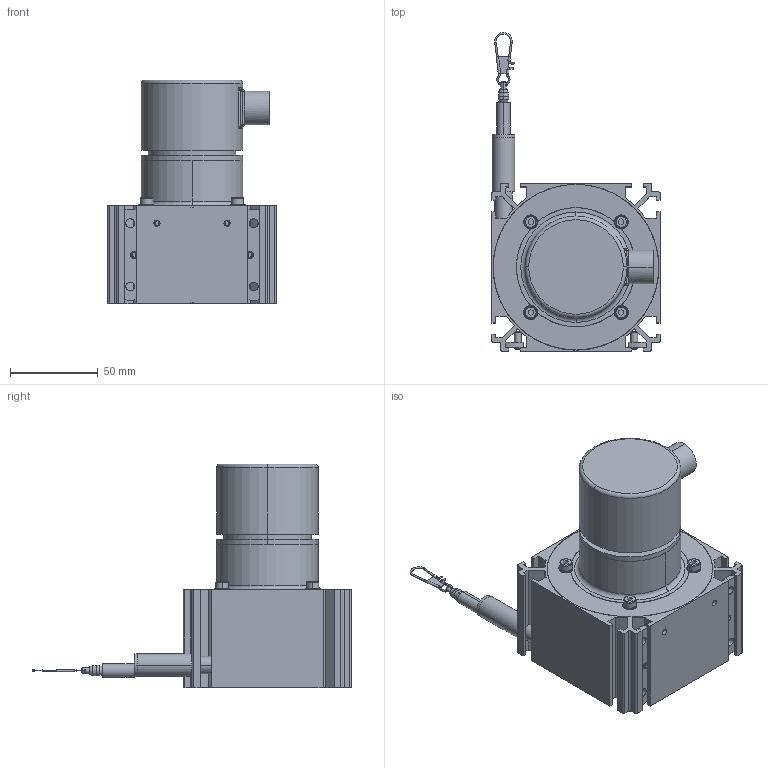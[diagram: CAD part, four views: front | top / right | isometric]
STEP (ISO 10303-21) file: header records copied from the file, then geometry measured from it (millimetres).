
FILE_DESCRIPTION((''),'2;1');
FILE_NAME('WDS-3000-P96-SR-SSI_ASM','2015-01-09T',('15000411'),(''),'PRO/ENGINEER BY PARAMETRIC TECHNOLOGY CORPORATION, 2013410','PRO/ENGINEER BY PARAMETRIC TECHNOLOGY CORPORATION, 2013410','');
FILE_SCHEMA(('CONFIG_CONTROL_DESIGN'));
Length unit declared in the file: millimetre
Products named in the file (55): TELESO_SENZORU_3I0_AF0; ADAPTER_3M_P96_AF0; STAV_SR_M4X5_IMBUS_PLOCH_AF0; STAV_SR_M4X5_IMBUS_PLOCH_AF1; STAV_SR_M4X5_IMBUS_PLOCH_AF2; STAV_SR_M4X5_IMBUS_PLOCH_AF3; POJ_KROUZEK_DIRA_21X_AF0; POJ_KROUZEK_DIRA_21X_AF1; LOZISKO_6801_AF0; LOZISKO_6801_AF1; HRIDEL_3M_AF0; PODLOZKA_MOTORU_5M_P115_AF0; POJ_KROUZEK_HRIDEL_12_AF0; UNASEC_PRUZINY_3M_AF0; KOLIK_PRUZNY_3X20_AF0; KOLIK_PRUZNY_3X20_AF1; KOLIK_PRUZNY_3X20_AF2; KOLIK_PRUZNY_3X20_AF3; KOLIK_PRUZNY_3X20_AF4; KOLIK_PRUZNY_3X20_AF5; KOLIK_PRUZNY_3X20_AF6; 14X0I25X6000_AF0; PODLOZKA_MOTORU_15X84I5X0I5_AF0; BUBINEK_260_AF0; STAV_SR_M4X5_IMBUS_PLOCH_AF4; VIKO_SENZORU_P96_CERNY_ELOX_AF0; TRUBKA_PRUCHODKY_2I5M_P96_AF0; PRUCHODKA_1_2; KARABINKA18_AF0; SPOJKA_GS5_PR6_2I1_AF0; SPOJKA_KRIZ_AF0; SPOJKA_GS5_PR6_AF0; STAV_SR_M3X3_IMBUS_PLOCH_AF0; PRIRUBA_SYNCHROENKODERU_P96_AF0; PODLOZKA_M4_VEJIROVA_AF0; SROUB_M4X6_VALC_IMBUS_AF0; PODLOZKA_M4_VEJIROVA_AF1; SROUB_M4X6_VALC_IMBUS_AF1; PODLOZKA_M4_VEJIROVA_AF2; SROUB_M4X6_VALC_IMBUS_AF2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
Assembly tree (54 placements, depth 2):
  WDS-3000-P96-SR-SSI_ASM
    TELESO_SENZORU_3I0_AF0
    ADAPTER_3M_P96_AF0
    STAV_SR_M4X5_IMBUS_PLOCH_AF0
    STAV_SR_M4X5_IMBUS_PLOCH_AF1
    STAV_SR_M4X5_IMBUS_PLOCH_AF2
    STAV_SR_M4X5_IMBUS_PLOCH_AF3
    POJ_KROUZEK_DIRA_21X_AF0
    POJ_KROUZEK_DIRA_21X_AF1
    LOZISKO_6801_AF0
    LOZISKO_6801_AF1
    HRIDEL_3M_AF0
    PODLOZKA_MOTORU_5M_P115_AF0
    POJ_KROUZEK_HRIDEL_12_AF0
    UNASEC_PRUZINY_3M_AF0
    KOLIK_PRUZNY_3X20_AF0
    KOLIK_PRUZNY_3X20_AF1
    KOLIK_PRUZNY_3X20_AF2
    KOLIK_PRUZNY_3X20_AF3
    KOLIK_PRUZNY_3X20_AF4
    KOLIK_PRUZNY_3X20_AF5
    KOLIK_PRUZNY_3X20_AF6
    14X0I25X6000_AF0
    PODLOZKA_MOTORU_15X84I5X0I5_AF0
    BUBINEK_260_AF0
    STAV_SR_M4X5_IMBUS_PLOCH_AF4
    VIKO_SENZORU_P96_CERNY_ELOX_AF0
    TRUBKA_PRUCHODKY_2I5M_P96_AF0
    PRUCHODKA_1_2
    KARABINKA18_AF0
    SPOJKA_GS5_PR6_2I1_AF0
    SPOJKA_KRIZ_AF0
    SPOJKA_GS5_PR6_AF0
    STAV_SR_M3X3_IMBUS_PLOCH_AF0
    PRIRUBA_SYNCHROENKODERU_P96_AF0
    PODLOZKA_M4_VEJIROVA_AF0
    SROUB_M4X6_VALC_IMBUS_AF0
    PODLOZKA_M4_VEJIROVA_AF1
    SROUB_M4X6_VALC_IMBUS_AF1
    PODLOZKA_M4_VEJIROVA_AF2
    SROUB_M4X6_VALC_IMBUS_AF2
    PODLOZKA_M4_VEJIROVA_AF3
    SROUB_M4X6_VALC_IMBUS_AF3
    KOLIK_PRUZNY_2X10_AF0
    UPEVNOVACI_MATICE_P96_M_IVO_AF0
    UPEVNOVACI_MATICE_P96_M_IVO_AF1
    STAV_SR_M4X10_IMBUS_PLOCH_AF0
    STAV_SR_M4X10_IMBUS_PLOCH_AF1
    PODLOZKA_M4_VEJIROVA_AF4
    SROUB_M4X6_PHILLIPS_AF0
    PODLOZKA_M4_VEJIROVA_AF5
    SROUB_M4X6_PHILLIPS_AF1
    PODLOZKA_M4_VEJIROVA_AF6
    SROUB_M4X6_PHILLIPS_AF2
    IVO_GM401_SSI_SR_E_SERVO_AF0
Bounding box: 96 x 181.99 x 127.7 mm (x, y, z)
Volume: 145301.8 mm3; surface area: 119358.5 mm2
Topology: 24 solids, 24 shells, 796 faces, 2056 edges, 1331 vertices
Faces by surface type: plane 491, cylinder 209, torus 34, cone 28, revolution 16, bspline 12, sphere 6
Entity records: 28824 total; most frequent: CARTESIAN_POINT 8254, DIRECTION 4180, ORIENTED_EDGE 4108, EDGE_CURVE 2054, AXIS2_PLACEMENT_3D 1561, VERTEX_POINT 1331, VECTOR 1042, LINE 1042
